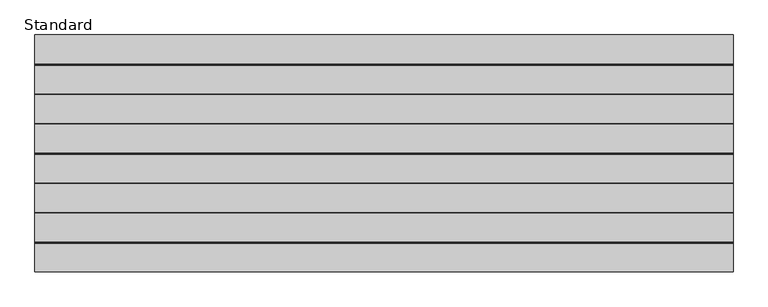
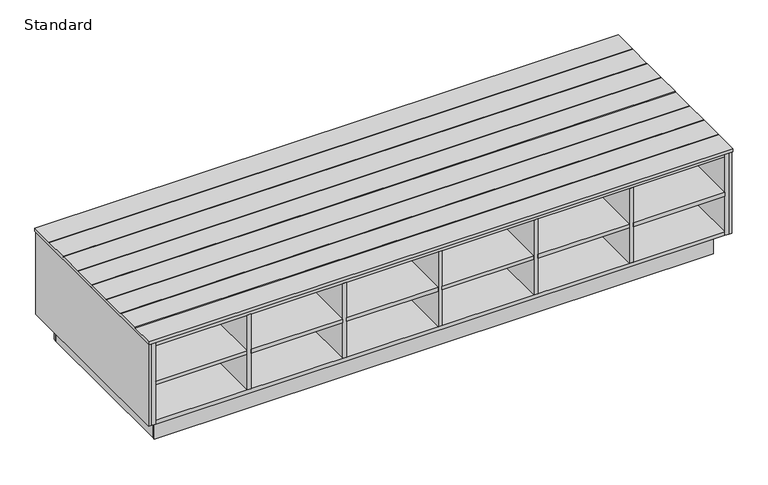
"""IFC4 building model written with IfcOpenShell, lengths in millimetres: furniture geometry, X_Bench-Island-Duracube-Shoe Box : Standard."""

import ifcopenshell
import ifcopenshell.guid

model = None  # the IFC model being written
_history = None  # IfcOwnerHistory: only IFC2X3 demands one
_inside = {}  # id of a spatial element -> (the spatial element, [elements in it])
_under = {}  # id of a project, library or spatial element -> (it, [spatial elements below it])
_declared = {}  # id of a project -> (the project, [libraries it declares])
_typed = {}  # id of a type object -> (the type object, [elements of that type])
_made_of = {}  # id of a material, layer set ... -> (it, [elements and type objects made of it])


def new_model(schema):
    """Start an empty IFC model of exactly this schema.

    Asked for "IFC4X3", IfcOpenShell would pick the latest addendum, in which some entities
    have other attributes; the version numbers below select the first issue.
    IFC2X3 requires an IfcOwnerHistory on every rooted entity: one is made here for all.
    """
    global model, _history
    if schema == "IFC4X3":
        model = ifcopenshell.file(schema_version=(4, 3, 0, 0))
    else:
        model = ifcopenshell.file(schema=schema)
    _inside.clear()
    _under.clear()
    _declared.clear()
    _typed.clear()
    _made_of.clear()
    _history = None
    if model.schema == "IFC2X3":
        org = make("IfcOrganization", Name="unknown")
        user = make(
            "IfcPersonAndOrganization",
            ThePerson=make("IfcPerson", FamilyName="unknown"),
            TheOrganization=org,
        )
        app = make(
            "IfcApplication",
            ApplicationDeveloper=org,
            Version="unknown",
            ApplicationFullName="unknown",
            ApplicationIdentifier="unknown",
        )
        _history = make(
            "IfcOwnerHistory",
            OwningUser=user,
            OwningApplication=app,
            ChangeAction="ADDED",
            CreationDate=0,
        )
    return model


def make(cls, **values):
    """One entity of the class cls with the attributes given. An attribute that is None is left unset."""
    return model.create_entity(
        cls, **{name: value for name, value in values.items() if value is not None}
    )


def rooted(cls, **values):
    """An entity with a GlobalId (a new one), such as an element, a storey or a relation."""
    return make(cls, GlobalId=ifcopenshell.guid.new(), OwnerHistory=_history, **values)


def si_unit(unit_type, name, prefix=None):
    """IfcSIUnit, for example si_unit("LENGTHUNIT", "METRE", prefix="MILLI")."""
    return make("IfcSIUnit", UnitType=unit_type, Prefix=prefix, Name=name)


def assignment(units):
    """IfcUnitAssignment: the units of a project."""
    return None if units is None else make("IfcUnitAssignment", Units=units)


def point(xyz):
    """IfcCartesianPoint."""
    return None if xyz is None else make("IfcCartesianPoint", Coordinates=xyz)


def direction(xyz):
    """IfcDirection."""
    return None if xyz is None else make("IfcDirection", DirectionRatios=xyz)


def frame(location, z_axis=None, x_axis=None):
    """IfcAxis2Placement3D, a coordinate frame: its origin and axes. An axis left out is left unset."""
    return make(
        "IfcAxis2Placement3D",
        Location=point(location),
        Axis=direction(z_axis),
        RefDirection=direction(x_axis),
    )


def origin():
    """The frame at (0, 0, 0) with its axes left unset."""
    return frame((0.0, 0.0, 0.0))


def origin_with_axes():
    """The frame at (0, 0, 0) with the z axis (0, 0, 1) and the x axis (1, 0, 0) written out."""
    return frame((0.0, 0.0, 0.0), z_axis=(0.0, 0.0, 1.0), x_axis=(1.0, 0.0, 0.0))


def place(relative_to, where):
    """IfcLocalPlacement: puts the frame where relative to a parent placement (None: the world)."""
    return make(
        "IfcLocalPlacement", PlacementRelTo=relative_to, RelativePlacement=where
    )


def context(
    kind, dimensions, precision=None, world=None, true_north=None, identifier=None
):
    """IfcGeometricRepresentationContext, for example the 3D "Model" context."""
    return make(
        "IfcGeometricRepresentationContext",
        ContextIdentifier=identifier,
        ContextType=kind,
        CoordinateSpaceDimension=dimensions,
        Precision=precision,
        WorldCoordinateSystem=world,
        TrueNorth=true_north,
    )


def project(units=None, contexts=None):
    """IfcProject with its units and contexts."""
    return rooted(
        "IfcProject",
        Name="project",
        RepresentationContexts=contexts,
        UnitsInContext=assignment(units),
    )


def spatial(cls, under=None, at=None, **own):
    """A site, building, storey or space (cls), placed at a placement, below another one or the project."""
    s = rooted(cls, ObjectPlacement=at, **own)
    if under is not None:
        _under.setdefault(under.id(), (under, []))[1].append(s)
    return s


def polyline(points):
    """IfcPolyline through the points."""
    return make("IfcPolyline", Points=[point(p) for p in points])


def outline(outer, holes=None, kind="AREA"):
    """IfcArbitraryClosedProfileDef: a profile drawn as a closed curve; with holes, ...WithVoids."""
    if holes is None:
        return make("IfcArbitraryClosedProfileDef", ProfileType=kind, OuterCurve=outer)
    return make(
        "IfcArbitraryProfileDefWithVoids",
        ProfileType=kind,
        OuterCurve=outer,
        InnerCurves=holes,
    )


def extrude(swept, where, along, depth):
    """IfcExtrudedAreaSolid: the profile swept, set in the frame where, extruded along a direction by depth."""
    return make(
        "IfcExtrudedAreaSolid",
        SweptArea=swept,
        Position=where,
        ExtrudedDirection=direction(along),
        Depth=depth,
    )


def shape(context_of_items, identifier, shape_type, items):
    """IfcShapeRepresentation: the items that make up one representation, for example the "Body"."""
    return make(
        "IfcShapeRepresentation",
        ContextOfItems=context_of_items,
        RepresentationIdentifier=identifier,
        RepresentationType=shape_type,
        Items=items,
    )


def source(mapping_origin, context_of_items, identifier, shape_type, items):
    """IfcRepresentationMap: a shape defined once, which mapped items show again and again."""
    return make(
        "IfcRepresentationMap",
        MappingOrigin=mapping_origin,
        MappedRepresentation=shape(context_of_items, identifier, shape_type, items),
    )


def transform(
    local_origin,
    x_axis=None,
    y_axis=None,
    z_axis=None,
    scale=None,
    scale2=None,
    scale3=None,
    uniform=True,
):
    """IfcCartesianTransformationOperator3D, or its non-uniform kind. x_axis, y_axis, z_axis: its Axis1, 2, 3."""
    if uniform:
        return make(
            "IfcCartesianTransformationOperator3D",
            Axis1=direction(x_axis),
            Axis2=direction(y_axis),
            LocalOrigin=point(local_origin),
            Scale=scale,
            Axis3=direction(z_axis),
        )
    return make(
        "IfcCartesianTransformationOperator3DnonUniform",
        Axis1=direction(x_axis),
        Axis2=direction(y_axis),
        LocalOrigin=point(local_origin),
        Scale=scale,
        Axis3=direction(z_axis),
        Scale2=scale2,
        Scale3=scale3,
    )


def mapped(mapping_source, mapping_target):
    """IfcMappedItem: shows the shape of a source again, moved by a transform."""
    return make(
        "IfcMappedItem", MappingSource=mapping_source, MappingTarget=mapping_target
    )


def made_of(thing, what):
    """Note that an element or type object is made of a material, layer set ...; save() writes the relation."""
    if what is not None:
        _made_of.setdefault(what.id(), (what, []))[1].append(thing)
    return thing


def element(
    cls,
    number,
    at=None,
    inside=None,
    cuts=None,
    type_object=None,
    material=None,
    context=None,
    identifier="Body",
    shape_type=None,
    held_by="IfcProductDefinitionShape",
    body=None,
    shapes=None,
    **own,
):
    """One element of the class cls, such as IfcWall. Its Tag is "e" and its number.

    at: its placement. inside: the storey or other place that contains it. cuts: it is an
    opening in that element (IfcRelVoidsElement). A single representation is given by context,
    identifier, shape_type and body (its items); several are given by shapes. held_by: the class
    of the entity that holds the representations. save() writes the other relations.
    """
    e = rooted(cls, Tag="e%d" % number, ObjectPlacement=at, **own)
    if body is not None:
        shapes = [shape(context, identifier, shape_type, body)]
    if shapes is not None:
        e.Representation = make(held_by, Representations=shapes)
    if inside is not None:
        _inside.setdefault(inside.id(), (inside, []))[1].append(e)
    if cuts is not None:
        rooted(
            "IfcRelVoidsElement", RelatingBuildingElement=cuts, RelatedOpeningElement=e
        )
    if type_object is not None:
        _typed.setdefault(type_object.id(), (type_object, []))[1].append(e)
    return made_of(e, material)


def aggregate(whole, parts):
    """IfcRelAggregates: a whole, such as a stair, and the parts it consists of."""
    return rooted("IfcRelAggregates", RelatingObject=whole, RelatedObjects=parts)


def save(model, path):
    """Write the relations noted so far, then the file.

    IfcRelAggregates (storeys below a building ...), IfcRelContainedInSpatialStructure (elements
    in a storey), IfcRelDefinesByType, IfcRelAssociatesMaterial and IfcRelDeclares: one each for
    every whole, place, type object, material and project.
    """
    for whole, parts in _under.values():
        aggregate(whole, parts)
    for where, things in _inside.values():
        rooted(
            "IfcRelContainedInSpatialStructure",
            RelatedElements=things,
            RelatingStructure=where,
        )
    for kind, things in _typed.values():
        rooted("IfcRelDefinesByType", RelatedObjects=things, RelatingType=kind)
    for what, things in _made_of.values():
        rooted("IfcRelAssociatesMaterial", RelatedObjects=things, RelatingMaterial=what)
    for by, libraries in _declared.values():
        rooted("IfcRelDeclares", RelatingContext=by, RelatedDefinitions=libraries)
    model.write(path)


def standard_776e0859(model_context):
    return source(origin(), model_context, "Body", "SweptSolid", [
        extrude(outline(polyline([(1215.7003264, -369.0), (838.7003264, -369.0), (838.7003264, 17.5), (1215.7003264, 17.5), (1215.7003264, -369.0)])), frame((0.0, 0.0, 270.5), z_axis=(0.0, 0.0, 1.0), x_axis=(1.0, 0.0, 0.0)), (0.0, 0.0, 1.0), 16.0),
        extrude(outline(polyline([(822.7003264, -369.0), (445.7003264, -369.0), (445.7003264, 17.5), (822.7003264, 17.5), (822.7003264, -369.0)])), frame((0.0, 0.0, 270.5), z_axis=(0.0, 0.0, 1.0), x_axis=(1.0, 0.0, 0.0)), (0.0, 0.0, 1.0), 16.0),
        extrude(outline(polyline([(429.7003264, -369.0), (52.7003264, -369.0), (52.7003264, 17.5), (429.7003264, 17.5), (429.7003264, -369.0)])), frame((0.0, 0.0, 270.5), z_axis=(0.0, 0.0, 1.0), x_axis=(1.0, 0.0, 0.0)), (0.0, 0.0, 1.0), 16.0),
        extrude(outline(polyline([(36.7003264, -369.0), (-340.2996736, -369.0), (-340.2996736, 17.5), (36.7003264, 17.5), (36.7003264, -369.0)])), frame((0.0, 0.0, 270.5), z_axis=(0.0, 0.0, 1.0), x_axis=(1.0, 0.0, 0.0)), (0.0, 0.0, 1.0), 16.0),
        extrude(outline(polyline([(-356.2996736, -369.0), (-733.2996736, -369.0), (-733.2996736, 17.5), (-356.2996736, 17.5), (-356.2996736, -369.0)])), frame((0.0, 0.0, 270.5), z_axis=(0.0, 0.0, 1.0), x_axis=(1.0, 0.0, 0.0)), (0.0, 0.0, 1.0), 16.0),
        extrude(outline(polyline([(-749.2996736, -369.0), (-1126.2996736, -369.0), (-1126.2996736, 17.5), (-749.2996736, 17.5), (-749.2996736, -369.0)])), frame((0.0, 0.0, 270.5), z_axis=(0.0, 0.0, 1.0), x_axis=(1.0, 0.0, 0.0)), (0.0, 0.0, 1.0), 16.0),
        extrude(outline(polyline([(838.7003264, -369.0), (822.7003264, -369.0), (822.7003264, 17.5), (838.7003264, 17.5), (838.7003264, -369.0)])), frame((0.0, 0.0, 116.0), z_axis=(0.0, 0.0, 1.0), x_axis=(1.0, 0.0, 0.0)), (0.0, 0.0, 1.0), 325.0),
        extrude(outline(polyline([(445.7003264, -369.0), (429.7003264, -369.0), (429.7003264, 17.5), (445.7003264, 17.5), (445.7003264, -369.0)])), frame((0.0, 0.0, 116.0), z_axis=(0.0, 0.0, 1.0), x_axis=(1.0, 0.0, 0.0)), (0.0, 0.0, 1.0), 325.0),
        extrude(outline(polyline([(52.7003264, -369.0), (36.7003264, -369.0), (36.7003264, 17.5), (52.7003264, 17.5), (52.7003264, -369.0)])), frame((0.0, 0.0, 116.0), z_axis=(0.0, 0.0, 1.0), x_axis=(1.0, 0.0, 0.0)), (0.0, 0.0, 1.0), 325.0),
        extrude(outline(polyline([(-340.2996736, -369.0), (-356.2996736, -369.0), (-356.2996736, 17.5), (-340.2996736, 17.5), (-340.2996736, -369.0)])), frame((0.0, 0.0, 116.0), z_axis=(0.0, 0.0, 1.0), x_axis=(1.0, 0.0, 0.0)), (0.0, 0.0, 1.0), 325.0),
        extrude(outline(polyline([(-733.2996736, -369.0), (-749.2996736, -369.0), (-749.2996736, 17.5), (-733.2996736, 17.5), (-733.2996736, -369.0)])), frame((0.0, 0.0, 116.0), z_axis=(0.0, 0.0, 1.0), x_axis=(1.0, 0.0, 0.0)), (0.0, 0.0, 1.0), 325.0),
        extrude(outline(polyline([(1231.7003264, -369.0), (1215.7003264, -369.0), (1215.7003264, 17.5), (1231.7003264, 17.5), (1231.7003264, -369.0)])), frame((0.0, 0.0, 100.0), z_axis=(0.0, 0.0, 1.0), x_axis=(1.0, 0.0, 0.0)), (0.0, 0.0, 1.0), 357.0),
        extrude(outline(polyline([(-1126.2996736, -369.0), (-1142.2996736, -369.0), (-1142.2996736, 17.5), (-1126.2996736, 17.5), (-1126.2996736, -369.0)])), frame((0.0, 0.0, 100.0), z_axis=(0.0, 0.0, 1.0), x_axis=(1.0, 0.0, 0.0)), (0.0, 0.0, 1.0), 357.0),
        extrude(outline(polyline([(1215.7003264, -369.0), (-1126.2996736, -369.0), (-1126.2996736, 17.5), (1215.7003264, 17.5), (1215.7003264, -369.0)])), frame((0.0, 0.0, 441.0), z_axis=(0.0, 0.0, 1.0), x_axis=(1.0, 0.0, 0.0)), (0.0, 0.0, 1.0), 16.0),
        extrude(outline(polyline([(1215.7003264, -369.0), (-1126.2996736, -369.0), (-1126.2996736, 17.5), (1215.7003264, 17.5), (1215.7003264, -369.0)])), frame((0.0, 0.0, 100.0), z_axis=(0.0, 0.0, 1.0), x_axis=(1.0, 0.0, 0.0)), (0.0, 0.0, 1.0), 16.0),
        extrude(outline(polyline([(1231.7003264, -385.0), (-1142.2996736, -385.0), (-1142.2996736, -369.0), (1231.7003264, -369.0), (1231.7003264, -385.0)])), frame((0.0, 0.0, 100.0), z_axis=(0.0, 0.0, 1.0), x_axis=(1.0, 0.0, 0.0)), (0.0, 0.0, 1.0), 357.0),
        extrude(outline(polyline([(1194.7003264, -40.5), (-1105.2996736, -40.5), (-1105.2996736, -27.5), (1194.7003264, -27.5), (1194.7003264, -40.5)])), origin_with_axes(), (0.0, 0.0, 1.0), 100.0),
        extrude(outline(polyline([(1165.7003264, -56.5), (-1076.2996736, -56.5), (-1076.2996736, -40.5), (1165.7003264, -40.5), (1165.7003264, -56.5)])), origin_with_axes(), (0.0, 0.0, 1.0), 100.0),
        extrude(outline(polyline([(-1092.2996736, -40.5), (-1076.2996736, -40.5), (-1076.2996736, -729.5), (-1092.2996736, -729.5), (-1092.2996736, -40.5)])), origin_with_axes(), (0.0, 0.0, 1.0), 100.0),
        extrude(outline(polyline([(1181.7003264, -729.5), (1165.7003264, -729.5), (1165.7003264, -40.5), (1181.7003264, -40.5), (1181.7003264, -729.5)])), origin_with_axes(), (0.0, 0.0, 1.0), 100.0),
        extrude(outline(polyline([(1181.7003264, -729.5), (1181.7003264, -40.5), (1194.7003264, -40.5), (1194.7003264, -729.5), (1181.7003264, -729.5)])), origin_with_axes(), (0.0, 0.0, 1.0), 100.0),
        extrude(outline(polyline([(-1092.2996736, -729.5), (-1105.2996736, -729.5), (-1105.2996736, -40.5), (-1092.2996736, -40.5), (-1092.2996736, -729.5)])), origin_with_axes(), (0.0, 0.0, 1.0), 100.0),
        extrude(outline(polyline([(22.5, 457.0), (-792.5, 457.0), (-792.5, 470.0), (-693.0, 470.0), (-691.0, 468.0), (-689.0, 470.0), (-591.0, 470.0), (-589.0, 468.0), (-587.0, 470.0), (-489.0, 470.0), (-487.0, 468.0), (-485.0, 470.0), (-387.0, 470.0), (-385.0, 468.0), (-383.0, 470.0), (-285.0, 470.0), (-283.0, 468.0), (-281.0, 470.0), (-183.0, 470.0), (-181.0, 468.0), (-179.0, 470.0), (-81.0, 470.0), (-79.0, 468.0), (-77.0, 470.0), (22.5, 470.0), (22.5, 457.0)])), frame((-1155.2996736, 0.0, 0.0), z_axis=(1.0, 0.0, 0.0), x_axis=(0.0, 1.0, 0.0)), (0.0, 0.0, 1.0), 2400.0),
        extrude(outline(polyline([(1215.7003264, -401.0), (1215.7003264, -787.5), (838.7003264, -787.5), (838.7003264, -401.0), (1215.7003264, -401.0)])), frame((0.0, 0.0, 270.5), z_axis=(0.0, 0.0, 1.0), x_axis=(1.0, 0.0, 0.0)), (0.0, 0.0, 1.0), 16.0),
        extrude(outline(polyline([(822.7003264, -401.0), (822.7003264, -787.5), (445.7003264, -787.5), (445.7003264, -401.0), (822.7003264, -401.0)])), frame((0.0, 0.0, 270.5), z_axis=(0.0, 0.0, 1.0), x_axis=(1.0, 0.0, 0.0)), (0.0, 0.0, 1.0), 16.0),
        extrude(outline(polyline([(429.7003264, -401.0), (429.7003264, -787.5), (52.7003264, -787.5), (52.7003264, -401.0), (429.7003264, -401.0)])), frame((0.0, 0.0, 270.5), z_axis=(0.0, 0.0, 1.0), x_axis=(1.0, 0.0, 0.0)), (0.0, 0.0, 1.0), 16.0),
        extrude(outline(polyline([(36.7003264, -401.0), (36.7003264, -787.5), (-340.2996736, -787.5), (-340.2996736, -401.0), (36.7003264, -401.0)])), frame((0.0, 0.0, 270.5), z_axis=(0.0, 0.0, 1.0), x_axis=(1.0, 0.0, 0.0)), (0.0, 0.0, 1.0), 16.0),
        extrude(outline(polyline([(-356.2996736, -401.0), (-356.2996736, -787.5), (-733.2996736, -787.5), (-733.2996736, -401.0), (-356.2996736, -401.0)])), frame((0.0, 0.0, 270.5), z_axis=(0.0, 0.0, 1.0), x_axis=(1.0, 0.0, 0.0)), (0.0, 0.0, 1.0), 16.0),
        extrude(outline(polyline([(838.7003264, -401.0), (838.7003264, -787.5), (822.7003264, -787.5), (822.7003264, -401.0), (838.7003264, -401.0)])), frame((0.0, 0.0, 116.0), z_axis=(0.0, 0.0, 1.0), x_axis=(1.0, 0.0, 0.0)), (0.0, 0.0, 1.0), 325.0),
        extrude(outline(polyline([(445.7003264, -401.0), (445.7003264, -787.5), (429.7003264, -787.5), (429.7003264, -401.0), (445.7003264, -401.0)])), frame((0.0, 0.0, 116.0), z_axis=(0.0, 0.0, 1.0), x_axis=(1.0, 0.0, 0.0)), (0.0, 0.0, 1.0), 325.0),
        extrude(outline(polyline([(52.7003264, -401.0), (52.7003264, -787.5), (36.7003264, -787.5), (36.7003264, -401.0), (52.7003264, -401.0)])), frame((0.0, 0.0, 116.0), z_axis=(0.0, 0.0, 1.0), x_axis=(1.0, 0.0, 0.0)), (0.0, 0.0, 1.0), 325.0),
        extrude(outline(polyline([(-340.2996736, -401.0), (-340.2996736, -787.5), (-356.2996736, -787.5), (-356.2996736, -401.0), (-340.2996736, -401.0)])), frame((0.0, 0.0, 116.0), z_axis=(0.0, 0.0, 1.0), x_axis=(1.0, 0.0, 0.0)), (0.0, 0.0, 1.0), 325.0),
        extrude(outline(polyline([(-733.2996736, -401.0), (-733.2996736, -787.5), (-749.2996736, -787.5), (-749.2996736, -401.0), (-733.2996736, -401.0)])), frame((0.0, 0.0, 116.0), z_axis=(0.0, 0.0, 1.0), x_axis=(1.0, 0.0, 0.0)), (0.0, 0.0, 1.0), 325.0),
        extrude(outline(polyline([(1231.7003264, -401.0), (1231.7003264, -787.5), (1215.7003264, -787.5), (1215.7003264, -401.0), (1231.7003264, -401.0)])), frame((0.0, 0.0, 100.0), z_axis=(0.0, 0.0, 1.0), x_axis=(1.0, 0.0, 0.0)), (0.0, 0.0, 1.0), 357.0),
        extrude(outline(polyline([(-1126.2996736, -401.0), (-1126.2996736, -787.5), (-1142.2996736, -787.5), (-1142.2996736, -401.0), (-1126.2996736, -401.0)])), frame((0.0, 0.0, 100.0), z_axis=(0.0, 0.0, 1.0), x_axis=(1.0, 0.0, 0.0)), (0.0, 0.0, 1.0), 357.0),
        extrude(outline(polyline([(-749.2996736, -401.0), (-749.2996736, -787.5), (-1126.2996736, -787.5), (-1126.2996736, -401.0), (-749.2996736, -401.0)])), frame((0.0, 0.0, 270.5), z_axis=(0.0, 0.0, 1.0), x_axis=(1.0, 0.0, 0.0)), (0.0, 0.0, 1.0), 16.0),
        extrude(outline(polyline([(1215.7003264, -401.0), (1215.7003264, -787.5), (-1126.2996736, -787.5), (-1126.2996736, -401.0), (1215.7003264, -401.0)])), frame((0.0, 0.0, 441.0), z_axis=(0.0, 0.0, 1.0), x_axis=(1.0, 0.0, 0.0)), (0.0, 0.0, 1.0), 16.0),
        extrude(outline(polyline([(1215.7003264, -401.0), (1215.7003264, -787.5), (-1126.2996736, -787.5), (-1126.2996736, -401.0), (1215.7003264, -401.0)])), frame((0.0, 0.0, 100.0), z_axis=(0.0, 0.0, 1.0), x_axis=(1.0, 0.0, 0.0)), (0.0, 0.0, 1.0), 16.0),
        extrude(outline(polyline([(1231.7003264, 17.5), (1244.7003264, 17.5), (1244.7003264, -787.5), (1231.7003264, -787.5), (1231.7003264, 17.5)])), frame((0.0, 0.0, 100.0), z_axis=(0.0, 0.0, 1.0), x_axis=(1.0, 0.0, 0.0)), (0.0, 0.0, 1.0), 357.0),
        extrude(outline(polyline([(-1155.2996736, 17.5), (-1142.2996736, 17.5), (-1142.2996736, -787.5), (-1155.2996736, -787.5), (-1155.2996736, 17.5)])), frame((0.0, 0.0, 100.0), z_axis=(0.0, 0.0, 1.0), x_axis=(1.0, 0.0, 0.0)), (0.0, 0.0, 1.0), 357.0),
        extrude(outline(polyline([(1231.7003264, -385.0), (1231.7003264, -401.0), (-1142.2996736, -401.0), (-1142.2996736, -385.0), (1231.7003264, -385.0)])), frame((0.0, 0.0, 100.0), z_axis=(0.0, 0.0, 1.0), x_axis=(1.0, 0.0, 0.0)), (0.0, 0.0, 1.0), 357.0),
        extrude(outline(polyline([(1165.7003264, -713.5), (1165.7003264, -729.5), (-1076.2996736, -729.5), (-1076.2996736, -713.5), (1165.7003264, -713.5)])), origin_with_axes(), (0.0, 0.0, 1.0), 100.0),
        extrude(outline(polyline([(1194.7003264, -729.5), (1194.7003264, -742.5), (-1105.2996736, -742.5), (-1105.2996736, -729.5), (1194.7003264, -729.5)])), origin_with_axes(), (0.0, 0.0, 1.0), 100.0),
    ])


if __name__ == "__main__":
    model = new_model("IFC4")
    model_context = context("Model", 3, world=origin())
    ifc_project = project(units=[si_unit("LENGTHUNIT", "METRE", prefix="MILLI")], contexts=[model_context])
    site = spatial("IfcSite", under=ifc_project)
    building = spatial("IfcBuilding", under=site)
    placement = place(None, origin())
    standard_shape = standard_776e0859(model_context)
    element("IfcFurniture", 1, ObjectType="X_Bench-Island-Duracube-Shoe Box : Standard", at=placement, inside=building, context=model_context, shape_type="MappedRepresentation", body=[
        mapped(standard_shape, transform((0.0, 0.0, 0.0), x_axis=(1.0, 0.0, 0.0), y_axis=(0.0, 1.0, 0.0), z_axis=(0.0, 0.0, 1.0))),
    ])
    save(model, "model.ifc")
